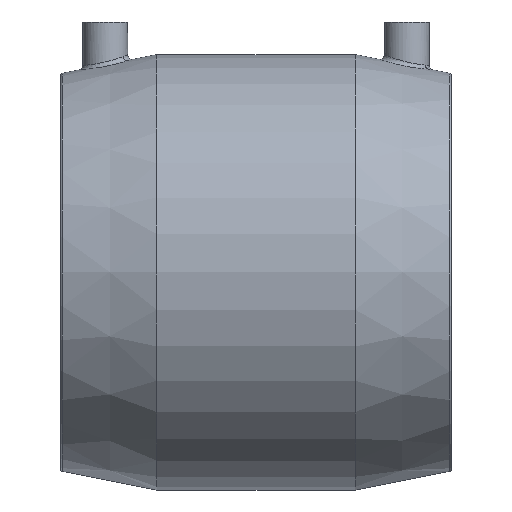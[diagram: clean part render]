
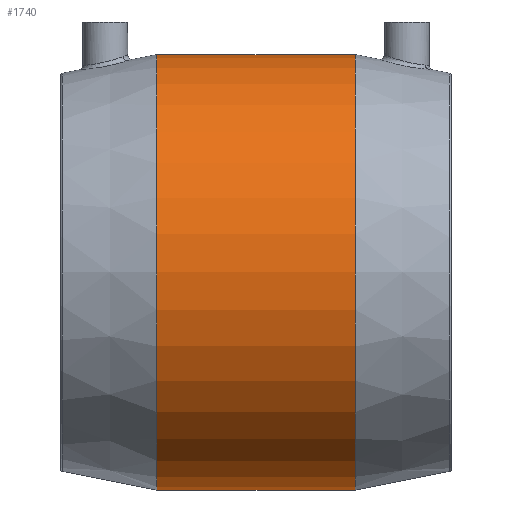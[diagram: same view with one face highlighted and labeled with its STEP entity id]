
A CAD part, top view. The second image highlights one B-rep face of the part: STEP entity #1740.
In plain terms, the highlighted cylindrical face has radius 97.5 mm (diameter 195 mm), a partial arc.
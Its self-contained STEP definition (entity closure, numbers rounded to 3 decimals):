
#101 = ORIENTED_EDGE ( 'NONE', *, *, #1473, .T. ) ;
#109 = ORIENTED_EDGE ( 'NONE', *, *, #1521, .F. ) ;
#125 = VECTOR ( 'NONE', #1149, 1000. ) ;
#176 = ORIENTED_EDGE ( 'NONE', *, *, #1476, .T. ) ;
#261 = LINE ( 'NONE', #729, #2252 ) ;
#432 = FACE_OUTER_BOUND ( 'NONE', #1020, .T. ) ;
#440 = DIRECTION ( 'NONE',  ( 0., -1., 0. ) ) ;
#447 = DIRECTION ( 'NONE',  ( -1., 0., 0. ) ) ;
#452 = CARTESIAN_POINT ( 'NONE',  ( 0., 0., 0. ) ) ;
#589 = CARTESIAN_POINT ( 'NONE',  ( 43., 97.5, 0. ) ) ;
#611 = VERTEX_POINT ( 'NONE', #1603 ) ;
#628 = AXIS2_PLACEMENT_3D ( 'NONE', #452, #447, #440 ) ;
#677 = VERTEX_POINT ( 'NONE', #1812 ) ;
#701 = DIRECTION ( 'NONE',  ( -1., 0., 0. ) ) ;
#715 = DIRECTION ( 'NONE',  ( 0., -1., 0. ) ) ;
#720 = DIRECTION ( 'NONE',  ( -1., 0., 0. ) ) ;
#726 = CARTESIAN_POINT ( 'NONE',  ( 43., 0., 0. ) ) ;
#729 = CARTESIAN_POINT ( 'NONE',  ( 0., -97.5, 0. ) ) ;
#911 = CYLINDRICAL_SURFACE ( 'NONE', #628, 97.5 ) ;
#1020 = EDGE_LOOP ( 'NONE', ( #101, #176, #109, #1632 ) ) ;
#1064 = AXIS2_PLACEMENT_3D ( 'NONE', #726, #720, #715 ) ;
#1094 = DIRECTION ( 'NONE',  ( 0., -1., 0. ) ) ;
#1101 = DIRECTION ( 'NONE',  ( -1., 0., 0. ) ) ;
#1112 = CARTESIAN_POINT ( 'NONE',  ( 132., 0., 0. ) ) ;
#1119 = CARTESIAN_POINT ( 'NONE',  ( 0., 97.5, 0. ) ) ;
#1149 = DIRECTION ( 'NONE',  ( -1., 0., 0. ) ) ;
#1196 = AXIS2_PLACEMENT_3D ( 'NONE', #1112, #1101, #1094 ) ;
#1473 = EDGE_CURVE ( 'NONE', #1799, #677, #1638, .T. ) ;
#1476 = EDGE_CURVE ( 'NONE', #677, #1553, #1702, .T. ) ;
#1521 = EDGE_CURVE ( 'NONE', #611, #1553, #2309, .T. ) ;
#1525 = EDGE_CURVE ( 'NONE', #1799, #611, #261, .T. ) ;
#1553 = VERTEX_POINT ( 'NONE', #589 ) ;
#1603 = CARTESIAN_POINT ( 'NONE',  ( 43., -97.5, 0. ) ) ;
#1632 = ORIENTED_EDGE ( 'NONE', *, *, #1525, .F. ) ;
#1638 = CIRCLE ( 'NONE', #1196, 97.5 ) ;
#1702 = LINE ( 'NONE', #1119, #125 ) ;
#1736 = CARTESIAN_POINT ( 'NONE',  ( 132., -97.5, 0. ) ) ;
#1740 = ADVANCED_FACE ( 'NONE', ( #432 ), #911, .T. ) ;
#1799 = VERTEX_POINT ( 'NONE', #1736 ) ;
#1812 = CARTESIAN_POINT ( 'NONE',  ( 132., 97.5, 0. ) ) ;
#2252 = VECTOR ( 'NONE', #701, 1000. ) ;
#2309 = CIRCLE ( 'NONE', #1064, 97.5 ) ;
